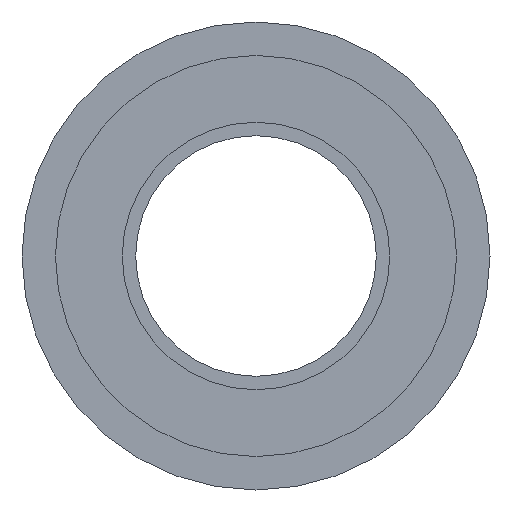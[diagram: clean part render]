
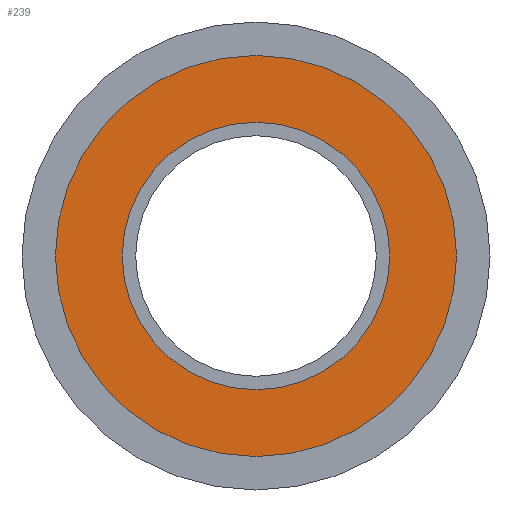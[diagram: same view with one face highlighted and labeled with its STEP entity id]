
A CAD part, left-side view. The second image highlights one B-rep face of the part: STEP entity #239.
In plain terms, the highlighted planar face has unit normal (-1, 0, 0).
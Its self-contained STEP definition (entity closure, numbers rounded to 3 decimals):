
#30 = DIRECTION ( 'NONE',  ( -1., 0., 0. ) ) ;
#42 = CARTESIAN_POINT ( 'NONE',  ( 3., 0., 0. ) ) ;
#53 = AXIS2_PLACEMENT_3D ( 'NONE', #522, #142, #519 ) ;
#63 = DIRECTION ( 'NONE',  ( 0., 0., 1. ) ) ;
#75 = FACE_BOUND ( 'NONE', #421, .T. ) ;
#76 = CARTESIAN_POINT ( 'NONE',  ( 3., 0., 0. ) ) ;
#109 = ORIENTED_EDGE ( 'NONE', *, *, #206, .F. ) ;
#116 = CARTESIAN_POINT ( 'NONE',  ( 3., 0., 0. ) ) ;
#118 = ORIENTED_EDGE ( 'NONE', *, *, #397, .F. ) ;
#119 = CARTESIAN_POINT ( 'NONE',  ( 3., 0., -15. ) ) ;
#142 = DIRECTION ( 'NONE',  ( 1., 0., 0. ) ) ;
#152 = DIRECTION ( 'NONE',  ( 0., 0., 1. ) ) ;
#159 = AXIS2_PLACEMENT_3D ( 'NONE', #116, #311, #63 ) ;
#170 = PLANE ( 'NONE',  #53 ) ;
#173 = CIRCLE ( 'NONE', #159, 10. ) ;
#201 = VERTEX_POINT ( 'NONE', #217 ) ;
#206 = EDGE_CURVE ( 'NONE', #459, #359, #173, .T. ) ;
#215 = CARTESIAN_POINT ( 'NONE',  ( 3., 0., 10. ) ) ;
#217 = CARTESIAN_POINT ( 'NONE',  ( 3., 0., 15. ) ) ;
#224 = DIRECTION ( 'NONE',  ( 0., 0., 1. ) ) ;
#237 = DIRECTION ( 'NONE',  ( -1., 0., 0. ) ) ;
#239 = ADVANCED_FACE ( 'NONE', ( #75, #312 ), #170, .F. ) ;
#247 = AXIS2_PLACEMENT_3D ( 'NONE', #76, #237, #152 ) ;
#266 = AXIS2_PLACEMENT_3D ( 'NONE', #495, #272, #267 ) ;
#267 = DIRECTION ( 'NONE',  ( 0., 0., 1. ) ) ;
#272 = DIRECTION ( 'NONE',  ( -1., 0., 0. ) ) ;
#304 = VERTEX_POINT ( 'NONE', #119 ) ;
#308 = AXIS2_PLACEMENT_3D ( 'NONE', #42, #30, #224 ) ;
#311 = DIRECTION ( 'NONE',  ( -1., 0., 0. ) ) ;
#312 = FACE_OUTER_BOUND ( 'NONE', #448, .T. ) ;
#359 = VERTEX_POINT ( 'NONE', #477 ) ;
#382 = CIRCLE ( 'NONE', #266, 15. ) ;
#393 = ORIENTED_EDGE ( 'NONE', *, *, #444, .T. ) ;
#397 = EDGE_CURVE ( 'NONE', #359, #459, #443, .T. ) ;
#421 = EDGE_LOOP ( 'NONE', ( #109, #118 ) ) ;
#428 = CIRCLE ( 'NONE', #247, 15. ) ;
#439 = EDGE_CURVE ( 'NONE', #201, #304, #428, .T. ) ;
#443 = CIRCLE ( 'NONE', #308, 10. ) ;
#444 = EDGE_CURVE ( 'NONE', #304, #201, #382, .T. ) ;
#448 = EDGE_LOOP ( 'NONE', ( #502, #393 ) ) ;
#459 = VERTEX_POINT ( 'NONE', #215 ) ;
#477 = CARTESIAN_POINT ( 'NONE',  ( 3., 0., -10. ) ) ;
#495 = CARTESIAN_POINT ( 'NONE',  ( 3., 0., 0. ) ) ;
#502 = ORIENTED_EDGE ( 'NONE', *, *, #439, .T. ) ;
#519 = DIRECTION ( 'NONE',  ( 0., 0., -1. ) ) ;
#522 = CARTESIAN_POINT ( 'NONE',  ( 3., 10., 0. ) ) ;
